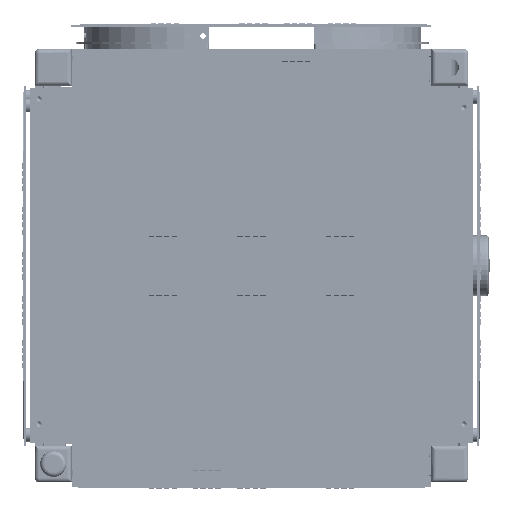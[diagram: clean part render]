
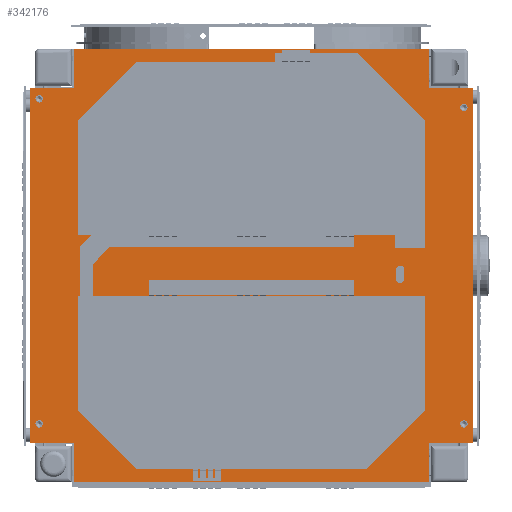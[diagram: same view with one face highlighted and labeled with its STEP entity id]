
A CAD part, front view. The second image highlights one B-rep face of the part: STEP entity #342176.
In plain terms, the highlighted planar face has unit normal (0, -1, 0) as drawn and (0, 0, 1) by its records, which use the part's own axes.
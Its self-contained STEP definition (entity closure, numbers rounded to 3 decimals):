
#341639=DIRECTION('',(0.,-1.,0.));
#341640=VECTOR('',#341639,9.);
#341641=CARTESIAN_POINT('',(-41.,50.,0.5));
#341642=LINE('',#341641,#341640);
#341643=DIRECTION('',(-1.,0.,0.));
#341644=VECTOR('',#341643,82.);
#341645=CARTESIAN_POINT('',(41.,50.,0.5));
#341646=LINE('',#341645,#341644);
#341647=DIRECTION('',(0.,1.,0.));
#341648=VECTOR('',#341647,9.);
#341649=CARTESIAN_POINT('',(41.,41.,0.5));
#341650=LINE('',#341649,#341648);
#341651=DIRECTION('',(-1.,0.,0.));
#341652=VECTOR('',#341651,10.);
#341653=CARTESIAN_POINT('',(51.,41.,0.5));
#341654=LINE('',#341653,#341652);
#341655=DIRECTION('',(0.,1.,0.));
#341656=VECTOR('',#341655,82.);
#341657=CARTESIAN_POINT('',(51.,-41.,0.5));
#341658=LINE('',#341657,#341656);
#341659=DIRECTION('',(1.,0.,0.));
#341660=VECTOR('',#341659,10.);
#341661=CARTESIAN_POINT('',(41.,-41.,0.5));
#341662=LINE('',#341661,#341660);
#341663=DIRECTION('',(0.,1.,0.));
#341664=VECTOR('',#341663,9.);
#341665=CARTESIAN_POINT('',(41.,-50.,0.5));
#341666=LINE('',#341665,#341664);
#341667=DIRECTION('',(1.,0.,0.));
#341668=VECTOR('',#341667,82.);
#341669=CARTESIAN_POINT('',(-41.,-50.,0.5));
#341670=LINE('',#341669,#341668);
#341671=DIRECTION('',(0.,-1.,0.));
#341672=VECTOR('',#341671,9.);
#341673=CARTESIAN_POINT('',(-41.,-41.,0.5));
#341674=LINE('',#341673,#341672);
#341675=DIRECTION('',(1.,0.,0.));
#341676=VECTOR('',#341675,10.);
#341677=CARTESIAN_POINT('',(-51.,-41.,0.5));
#341678=LINE('',#341677,#341676);
#341679=DIRECTION('',(0.,-1.,0.));
#341680=VECTOR('',#341679,82.);
#341681=CARTESIAN_POINT('',(-51.,41.,0.5));
#341682=LINE('',#341681,#341680);
#341683=DIRECTION('',(-1.,0.,0.));
#341684=VECTOR('',#341683,10.);
#341685=CARTESIAN_POINT('',(-41.,41.,0.5));
#341686=LINE('',#341685,#341684);
#341687=CARTESIAN_POINT('',(34.3,-1.,0.5));
#341688=DIRECTION('',(0.,0.,1.));
#341689=DIRECTION('',(1.,0.,0.));
#341690=AXIS2_PLACEMENT_3D('',#341687,#341688,#341689);
#341692=DIRECTION('',(0.,-1.,0.));
#341693=VECTOR('',#341692,2.);
#341694=CARTESIAN_POINT('',(33.3,-1.,0.5));
#341695=LINE('',#341694,#341693);
#341696=CARTESIAN_POINT('',(34.3,-3.,0.5));
#341697=DIRECTION('',(0.,0.,1.));
#341698=DIRECTION('',(-1.,0.,0.));
#341699=AXIS2_PLACEMENT_3D('',#341696,#341697,#341698);
#341701=DIRECTION('',(0.,1.,0.));
#341702=VECTOR('',#341701,2.);
#341703=CARTESIAN_POINT('',(35.3,-3.,0.5));
#341704=LINE('',#341703,#341702);
#341705=CARTESIAN_POINT('',(-49.,-36.5,0.5));
#341706=DIRECTION('',(0.,0.,-1.));
#341707=DIRECTION('',(-1.,0.,0.));
#341708=AXIS2_PLACEMENT_3D('',#341705,#341706,#341707);
#341710=CARTESIAN_POINT('',(-49.,-36.5,0.5));
#341711=DIRECTION('',(0.,0.,-1.));
#341712=DIRECTION('',(1.,0.,0.));
#341713=AXIS2_PLACEMENT_3D('',#341710,#341711,#341712);
#341715=CARTESIAN_POINT('',(49.,-36.5,0.5));
#341716=DIRECTION('',(0.,0.,-1.));
#341717=DIRECTION('',(-1.,0.,0.));
#341718=AXIS2_PLACEMENT_3D('',#341715,#341716,#341717);
#341720=CARTESIAN_POINT('',(49.,-36.5,0.5));
#341721=DIRECTION('',(0.,0.,-1.));
#341722=DIRECTION('',(1.,0.,0.));
#341723=AXIS2_PLACEMENT_3D('',#341720,#341721,#341722);
#341725=CARTESIAN_POINT('',(49.,36.5,0.5));
#341726=DIRECTION('',(0.,0.,-1.));
#341727=DIRECTION('',(-1.,0.,0.));
#341728=AXIS2_PLACEMENT_3D('',#341725,#341726,#341727);
#341730=CARTESIAN_POINT('',(49.,36.5,0.5));
#341731=DIRECTION('',(0.,0.,-1.));
#341732=DIRECTION('',(1.,0.,0.));
#341733=AXIS2_PLACEMENT_3D('',#341730,#341731,#341732);
#341735=CARTESIAN_POINT('',(-49.,38.5,0.5));
#341736=DIRECTION('',(0.,0.,-1.));
#341737=DIRECTION('',(-1.,0.,0.));
#341738=AXIS2_PLACEMENT_3D('',#341735,#341736,#341737);
#341740=CARTESIAN_POINT('',(-49.,38.5,0.5));
#341741=DIRECTION('',(0.,0.,-1.));
#341742=DIRECTION('',(1.,0.,0.));
#341743=AXIS2_PLACEMENT_3D('',#341740,#341741,#341742);
#341817=CARTESIAN_POINT('',(-41.,50.,0.5));
#341818=CARTESIAN_POINT('',(-41.,41.,0.5));
#341819=VERTEX_POINT('',#341817);
#341820=VERTEX_POINT('',#341818);
#341821=CARTESIAN_POINT('',(-51.,41.,0.5));
#341822=VERTEX_POINT('',#341821);
#341823=CARTESIAN_POINT('',(-51.,-41.,0.5));
#341824=VERTEX_POINT('',#341823);
#341825=CARTESIAN_POINT('',(-41.,-41.,0.5));
#341826=VERTEX_POINT('',#341825);
#341827=CARTESIAN_POINT('',(-41.,-50.,0.5));
#341828=VERTEX_POINT('',#341827);
#341829=CARTESIAN_POINT('',(41.,-50.,0.5));
#341830=VERTEX_POINT('',#341829);
#341831=CARTESIAN_POINT('',(41.,-41.,0.5));
#341832=VERTEX_POINT('',#341831);
#341833=CARTESIAN_POINT('',(51.,-41.,0.5));
#341834=VERTEX_POINT('',#341833);
#341835=CARTESIAN_POINT('',(51.,41.,0.5));
#341836=VERTEX_POINT('',#341835);
#341837=CARTESIAN_POINT('',(41.,41.,0.5));
#341838=VERTEX_POINT('',#341837);
#341839=CARTESIAN_POINT('',(41.,50.,0.5));
#341840=VERTEX_POINT('',#341839);
#341849=CARTESIAN_POINT('',(35.3,-1.,0.5));
#341850=CARTESIAN_POINT('',(33.3,-1.,0.5));
#341851=VERTEX_POINT('',#341849);
#341852=VERTEX_POINT('',#341850);
#341853=CARTESIAN_POINT('',(33.3,-3.,0.5));
#341854=VERTEX_POINT('',#341853);
#341855=CARTESIAN_POINT('',(35.3,-3.,0.5));
#341856=VERTEX_POINT('',#341855);
#341861=CARTESIAN_POINT('',(-49.85,-36.5,0.5));
#341862=CARTESIAN_POINT('',(-48.15,-36.5,0.5));
#341863=VERTEX_POINT('',#341861);
#341864=VERTEX_POINT('',#341862);
#341869=CARTESIAN_POINT('',(48.15,-36.5,0.5));
#341870=CARTESIAN_POINT('',(49.85,-36.5,0.5));
#341871=VERTEX_POINT('',#341869);
#341872=VERTEX_POINT('',#341870);
#341877=CARTESIAN_POINT('',(48.15,36.5,0.5));
#341878=CARTESIAN_POINT('',(49.85,36.5,0.5));
#341879=VERTEX_POINT('',#341877);
#341880=VERTEX_POINT('',#341878);
#341885=CARTESIAN_POINT('',(-49.85,38.5,0.5));
#341886=CARTESIAN_POINT('',(-48.15,38.5,0.5));
#341887=VERTEX_POINT('',#341885);
#341888=VERTEX_POINT('',#341886);
#342123=CARTESIAN_POINT('',(0.,0.,0.5));
#342124=DIRECTION('',(0.,0.,1.));
#342125=DIRECTION('',(1.,0.,0.));
#342126=AXIS2_PLACEMENT_3D('',#342123,#342124,#342125);
#342127=PLANE('',#342126);
#342128=ORIENTED_EDGE('',*,*,#341963,.F.);
#342129=ORIENTED_EDGE('',*,*,#341978,.F.);
#342130=ORIENTED_EDGE('',*,*,#341992,.F.);
#342131=ORIENTED_EDGE('',*,*,#342006,.F.);
#342132=ORIENTED_EDGE('',*,*,#342020,.F.);
#342133=ORIENTED_EDGE('',*,*,#342034,.F.);
#342134=ORIENTED_EDGE('',*,*,#342048,.F.);
#342135=ORIENTED_EDGE('',*,*,#342062,.F.);
#342136=ORIENTED_EDGE('',*,*,#342076,.F.);
#342137=ORIENTED_EDGE('',*,*,#342090,.F.);
#342138=ORIENTED_EDGE('',*,*,#342104,.F.);
#342139=ORIENTED_EDGE('',*,*,#342117,.F.);
#342140=EDGE_LOOP('',(#342128,#342129,#342130,#342131,#342132,#342133,#342134,
#342135,#342136,#342137,#342138,#342139));
#342141=FACE_OUTER_BOUND('',#342140,.F.);
#342143=ORIENTED_EDGE('',*,*,#342142,.T.);
#342145=ORIENTED_EDGE('',*,*,#342144,.T.);
#342147=ORIENTED_EDGE('',*,*,#342146,.T.);
#342149=ORIENTED_EDGE('',*,*,#342148,.T.);
#342150=EDGE_LOOP('',(#342143,#342145,#342147,#342149));
#342151=FACE_BOUND('',#342150,.F.);
#342153=ORIENTED_EDGE('',*,*,#342152,.F.);
#342155=ORIENTED_EDGE('',*,*,#342154,.F.);
#342156=EDGE_LOOP('',(#342153,#342155));
#342157=FACE_BOUND('',#342156,.F.);
#342159=ORIENTED_EDGE('',*,*,#342158,.F.);
#342161=ORIENTED_EDGE('',*,*,#342160,.F.);
#342162=EDGE_LOOP('',(#342159,#342161));
#342163=FACE_BOUND('',#342162,.F.);
#342165=ORIENTED_EDGE('',*,*,#342164,.F.);
#342167=ORIENTED_EDGE('',*,*,#342166,.F.);
#342168=EDGE_LOOP('',(#342165,#342167));
#342169=FACE_BOUND('',#342168,.F.);
#342171=ORIENTED_EDGE('',*,*,#342170,.F.);
#342173=ORIENTED_EDGE('',*,*,#342172,.F.);
#342174=EDGE_LOOP('',(#342171,#342173));
#342175=FACE_BOUND('',#342174,.F.);
#342176=ADVANCED_FACE('',(#342141,#342151,#342157,#342163,#342169,#342175),
#342127,.T.);
#341691=CIRCLE('',#341690,1.);
#341700=CIRCLE('',#341699,1.);
#341709=CIRCLE('',#341708,0.85);
#341714=CIRCLE('',#341713,0.85);
#341719=CIRCLE('',#341718,0.85);
#341724=CIRCLE('',#341723,0.85);
#341729=CIRCLE('',#341728,0.85);
#341734=CIRCLE('',#341733,0.85);
#341739=CIRCLE('',#341738,0.85);
#341744=CIRCLE('',#341743,0.85);
#341963=EDGE_CURVE('',#341819,#341820,#341642,.T.);
#341978=EDGE_CURVE('',#341840,#341819,#341646,.T.);
#341992=EDGE_CURVE('',#341838,#341840,#341650,.T.);
#342006=EDGE_CURVE('',#341836,#341838,#341654,.T.);
#342020=EDGE_CURVE('',#341834,#341836,#341658,.T.);
#342034=EDGE_CURVE('',#341832,#341834,#341662,.T.);
#342048=EDGE_CURVE('',#341830,#341832,#341666,.T.);
#342062=EDGE_CURVE('',#341828,#341830,#341670,.T.);
#342076=EDGE_CURVE('',#341826,#341828,#341674,.T.);
#342090=EDGE_CURVE('',#341824,#341826,#341678,.T.);
#342104=EDGE_CURVE('',#341822,#341824,#341682,.T.);
#342117=EDGE_CURVE('',#341820,#341822,#341686,.T.);
#342142=EDGE_CURVE('',#341851,#341852,#341691,.T.);
#342144=EDGE_CURVE('',#341852,#341854,#341695,.T.);
#342146=EDGE_CURVE('',#341854,#341856,#341700,.T.);
#342148=EDGE_CURVE('',#341856,#341851,#341704,.T.);
#342152=EDGE_CURVE('',#341863,#341864,#341709,.T.);
#342154=EDGE_CURVE('',#341864,#341863,#341714,.T.);
#342158=EDGE_CURVE('',#341871,#341872,#341719,.T.);
#342160=EDGE_CURVE('',#341872,#341871,#341724,.T.);
#342164=EDGE_CURVE('',#341879,#341880,#341729,.T.);
#342166=EDGE_CURVE('',#341880,#341879,#341734,.T.);
#342170=EDGE_CURVE('',#341887,#341888,#341739,.T.);
#342172=EDGE_CURVE('',#341888,#341887,#341744,.T.);
